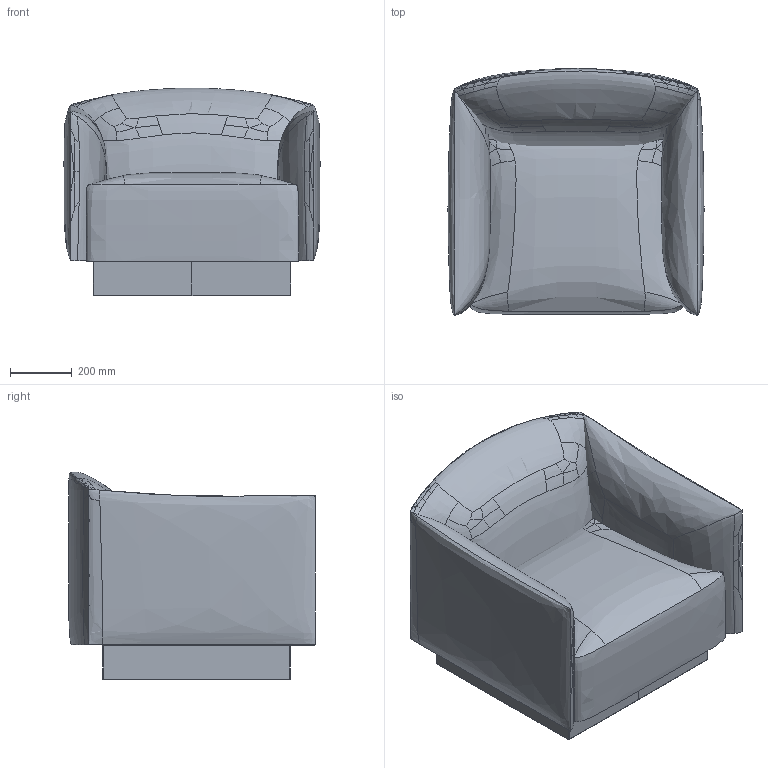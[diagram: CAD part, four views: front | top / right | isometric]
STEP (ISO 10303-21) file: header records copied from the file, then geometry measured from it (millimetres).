
FILE_DESCRIPTION(/* description */ (''),/* implementation_level */ '2;1');
FILE_NAME(/* name */ 'ARMCHAIR PLINTH',/* time_stamp */ '2023-01-06T14:19:50+01:00',/* author */ (''),/* organization */ (''),/* preprocessor_version */ 'ST-DEVELOPER v16.5',/* originating_system */ 'Rhino 7.25',/* authorisation */ '');
FILE_SCHEMA (('CONFIG_CONTROL_DESIGN'));
Length unit declared in the file: millimetre
Products named in the file (1): Document
Bounding box: 828.31 x 798.78 x 672.08 mm (x, y, z)
Volume: 279449656.1 mm3; surface area: 5157958.9 mm2
Topology: 5 solids, 5 shells, 208 faces, 506 edges, 309 vertices
Faces by surface type: bspline 146, plane 46, cylinder 16
Entity records: 23673 total; most frequent: CARTESIAN_POINT 20323, ORIENTED_EDGE 1008, EDGE_CURVE 504, B_SPLINE_CURVE_WITH_KNOTS 478, VERTEX_POINT 306, ADVANCED_FACE 208, FACE_OUTER_BOUND 208, EDGE_LOOP 208
